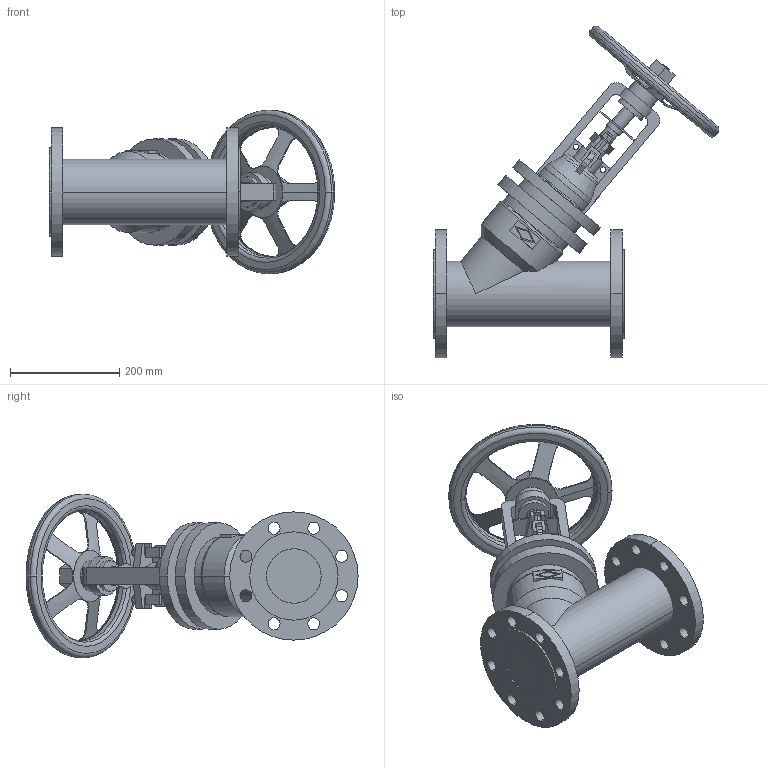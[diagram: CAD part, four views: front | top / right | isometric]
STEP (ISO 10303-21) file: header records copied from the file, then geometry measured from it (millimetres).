
FILE_DESCRIPTION(('OneSpaceDesigner STEP Export'),'2;1');
FILE_NAME('c000004398.stp','2010-05-07T 9:37:15',(''),(''),'OneSpace Designer STEP processor for AP214 (Solid Model)','OneSpace Modeling 15.50B 03-Nov-2007 (C) CoCreate Software GmbH','');
FILE_SCHEMA(('AUTOMOTIVE_DESIGN { 1 0 10303 214 1 1 1 1 }'));
Length unit declared in the file: millimetre
Products named in the file (1): 1
Bounding box: 523.07 x 608.17 x 300 mm (x, y, z)
Volume: 10250281 mm3; surface area: 694986.5 mm2
Topology: 1 solids, 1 shells, 345 faces, 950 edges, 622 vertices
Faces by surface type: cylinder 150, plane 145, torus 36, cone 14
Entity records: 14069 total; most frequent: CARTESIAN_POINT 3156, ORIENTED_EDGE 1876, DIRECTION 1440, EDGE_CURVE 938, VERTEX_POINT 616, AXIS2_PLACEMENT_3D 503, VECTOR 434, LINE 434
